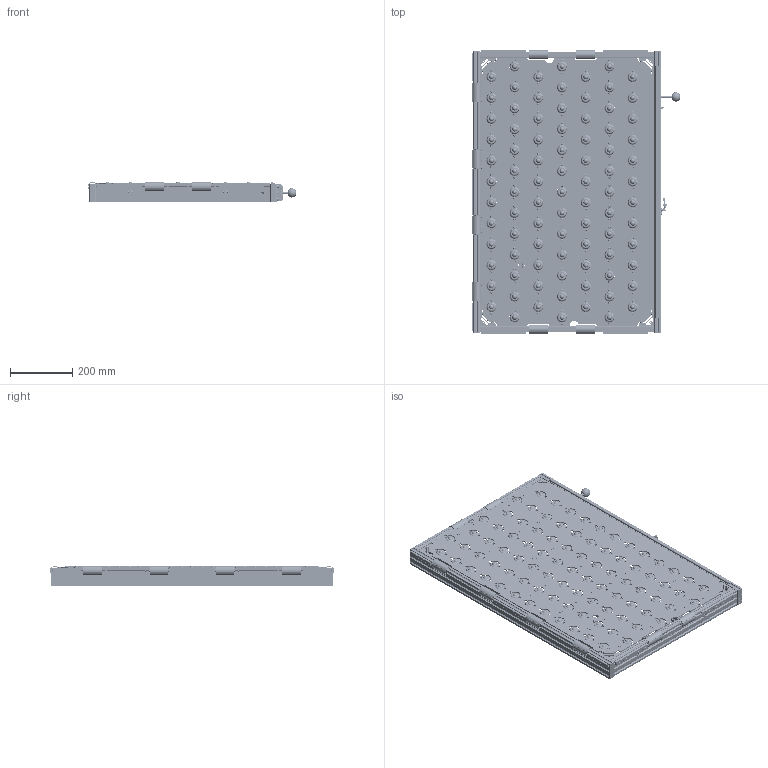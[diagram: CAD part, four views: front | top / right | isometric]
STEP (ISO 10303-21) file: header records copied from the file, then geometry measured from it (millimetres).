
FILE_DESCRIPTION(/* description */ (''),/* implementation_level */ '2;1');
FILE_NAME(/* name */ 'Z:\01-DesignData\★媒体用(Web\X2\FF0F30AB30BF30ED30B0\X0\)CADデータ\002-QL-FUS-6090\組立図.stp',/* time_stamp */ '2019-07-22T10:56:13+09:00',/* author */ ('m-susga'),/* organization */ (''),/* preprocessor_version */ 'ST-DEVELOPER v16.5',/* originating_system */ 'Autodesk Inventor 2017',/* authorisation */ '');
FILE_SCHEMA (('AUTOMOTIVE_DESIGN { 1 0 10303 214 3 1 1 }'));
Products named in the file (74): 組立図; シャーシ下部-Assy; シャーシ-Assy; NFS5-2060-560-LTP(アルミフレーム、ミスミ)
追加工(1)-Assy; HFS5-2060-460(\X2\30A230EB30DF30D530EC30FC30E0300130DF
30B930DF\X0\); HNTP5-3(後入れナット：M3); NFS5-2060-560(アルミフレーム、ミスミ)\X2\8FFD
52A05DE5\X0\(2)-Assy; HFS5-2060-460(\X2\30A230EB30DF30D530EC30FC30E0300130DF
30B930DF\X0\)_1; NFS5-2060-900(アルミフレーム、ミスミ)\X2\8FFD
52A05DE5\X0\(5)-Assy; HFS5-2060-800(\X2\30A230EB30DF30D530EC30FC30E0300130DF
30B930DF\X0\); ローラー-Assy; ASTP-30-60L(SP \X2\30B930DA30B730E330EB30D530EC30FC30E0300130DF30B930DF
\X0\); SRU-480(SUS304\X2\7CBE5BC630B730E330D530C8300130DF30B9
30DF\X0\); M4; M3x14(十字ナベ、SUS); HFS5-2020-800(\X2\30A230EB30DF30D530EC30FC30E0300130DF
30B930DF\X0\); NFS5-2020-400-Z5-XA10(\X2\30A230EB30DF30D530EC30FC30E0300130DF30B930DF
\X0\); NFS5-2020-200(\X2\30A230EB30DF30D530EC30FC30E0300130DF
30B930DF\X0\); HBLUT5-SEU(極厚型ブラケット-\X2\30BB30C330C83001
30DF30B930DF\X0\); _HBLUT5_a; HBKUS5-SEU(極厚型ブラケット-\X2\30BB30C330C83001
30DF30B930DF\X0\); _HBKUS5_b; M5x14(CSB); HFC5-2060-S(フレームキャップ、ミスミ)
-レーザー刻印仕様; HFC5-2060(\X2\30D530EC30FC30E030AD30E330C330D7300130DF
30B930DF\X0\); HFC5-2020-S(\X2\30D530EC30FC30E030AD30E330C330D7300130DF
30B930DF\X0\); NFS5-2060-560(アルミフレーム、ミスミ)\X2\8FFD
52A05DE5\X0\(2)-Assy_1; NFS5-2060-560(アルミフレーム、ミスミ)\X2\8FFD
52A05DE5\X0\(2); NFS5-2060-560(アルミフレーム、ミスミ)\X2\8FFD
52A05DE5\X0\(3)-Assy; NFS5-2060-560(アルミフレーム、ミスミ)\X2\8FFD
52A05DE5\X0\(3); HBLFSL5-SET(\X2\724730EA30D630D630E930B130C330C8300130DF
30B930DF\X0\); HBLFSL5hblfsn5 ; M5x10(CSB); NFS5-2525-860-TPW(\X2\30A230EB30DF30D530EC30FC30E03001
30DF30B930DF\X0\); M8x20(CSB)1; NFS5-2020-200-Z5-XA15-XB185-Assy; HFS5-2020-200(\X2\30A230EB30DF30D530EC30FC30E0300130DF
30B930DF\X0\); M5x28(CSB); NFS5-2525-825L(\X2\30A230EB30DF30D530EC30FC30E0300130DF
30B930DF\X0\); M5x18(CSB) ...
Assembly tree (309 placements, depth 6):
  組立図
    シャーシ下部-Assy
      シャーシ-Assy
        NFS5-2060-560-LTP(アルミフレーム、ミスミ)
追加工(1)-Assy
          HFS5-2060-460(\X2\30A230EB30DF30D530EC30FC30E0300130DF
30B930DF\X0\)
          ローラー-Assy  x2
            ASTP-30-60L(SP \X2\30B930DA30B730E330EB30D530EC30FC30E0300130DF30B930DF
\X0\)
            SRU-480(SUS304\X2\7CBE5BC630B730E330D530C8300130DF30B9
30DF\X0\)
            M4
          M3x14(十字ナベ、SUS)  x4
          HNTP5-3(後入れナット：M3)  x4
        NFS5-2060-560(アルミフレーム、ミスミ)\X2\8FFD
52A05DE5\X0\(2)-Assy
          HFS5-2060-460(\X2\30A230EB30DF30D530EC30FC30E0300130DF
30B930DF\X0\)_1
          ローラー-Assy  x2
            ASTP-30-60L(SP \X2\30B930DA30B730E330EB30D530EC30FC30E0300130DF30B930DF
\X0\)
            SRU-480(SUS304\X2\7CBE5BC630B730E330D530C8300130DF30B9
30DF\X0\)
            M4
          M3x14(十字ナベ、SUS)  x4
        NFS5-2060-900(アルミフレーム、ミスミ)\X2\8FFD
52A05DE5\X0\(5)-Assy
          HFS5-2060-800(\X2\30A230EB30DF30D530EC30FC30E0300130DF
30B930DF\X0\)
          ローラー-Assy  x4
            ASTP-30-60L(SP \X2\30B930DA30B730E330EB30D530EC30FC30E0300130DF30B930DF
\X0\)
            SRU-480(SUS304\X2\7CBE5BC630B730E330D530C8300130DF30B9
30DF\X0\)
            M4
          M3x14(十字ナベ、SUS)  x8
        HFS5-2020-800(\X2\30A230EB30DF30D530EC30FC30E0300130DF
30B930DF\X0\)  x2
        NFS5-2020-400-Z5-XA10(\X2\30A230EB30DF30D530EC30FC30E0300130DF30B930DF
\X0\)
        NFS5-2020-200(\X2\30A230EB30DF30D530EC30FC30E0300130DF
30B930DF\X0\)
        HBLUT5-SEU(極厚型ブラケット-\X2\30BB30C330C83001
30DF30B930DF\X0\)  x3
          _HBLUT5_a
          M5x14(CSB)
        HBKUS5-SEU(極厚型ブラケット-\X2\30BB30C330C83001
30DF30B930DF\X0\)  x2
          _HBKUS5_b
          M5x14(CSB)
        HFC5-2060(\X2\30D530EC30FC30E030AD30E330C330D7300130DF
30B930DF\X0\)  x3
        HFC5-2060-S(フレームキャップ、ミスミ)
-レーザー刻印仕様
        HFC5-2020-S(\X2\30D530EC30FC30E030AD30E330C330D7300130DF
30B930DF\X0\)  x2
        NFS5-2060-560(アルミフレーム、ミスミ)\X2\8FFD
52A05DE5\X0\(2)-Assy_1  x2
          NFS5-2060-560(アルミフレーム、ミスミ)\X2\8FFD
52A05DE5\X0\(2)
          HBLFSL5-SET(\X2\724730EA30D630D630E930B130C330C8300130DF
30B930DF\X0\)
            HBLFSL5hblfsn5 
            M5x10(CSB)  x2
        NFS5-2060-560(アルミフレーム、ミスミ)\X2\8FFD
52A05DE5\X0\(3)-Assy  x2
          NFS5-2060-560(アルミフレーム、ミスミ)\X2\8FFD
52A05DE5\X0\(3)
          HBLFSL5-SET(\X2\724730EA30D630D630E930B130C330C8300130DF
30B930DF\X0\)
            HBLFSL5hblfsn5 
            M5x10(CSB)  x2
        NFS5-2525-860-TPW(\X2\30A230EB30DF30D530EC30FC30E03001
30DF30B930DF\X0\)  x3
        M8x20(CSB)1  x6
        NFS5-2020-200-Z5-XA15-XB185-Assy  x2
          HFS5-2020-200(\X2\30A230EB30DF30D530EC30FC30E0300130DF
30B930DF\X0\)
          M5x20(CSB)
        M5x28(CSB)
        NFS5-2525-825L(\X2\30A230EB30DF30D530EC30FC30E0300130DF
30B930DF\X0\)  x4
        M5x18(CSB)  x28
        CIMMB2009-1.0  x3
      メインシリンダー-Assy
        M8(W)
        _HBLFSN5hblfsn5
        HNS3-ST-M8_214
Bounding box: 668.7 x 911.4 x 65.7 mm (x, y, z)
Volume: 6732558.5 mm3; surface area: 5802996.6 mm2
Topology: 544 solids, 544 shells, 17945 faces, 45939 edges, 29779 vertices
Faces by surface type: plane 10460, cylinder 5052, torus 889, cone 874, sphere 396, bspline 274
Full cylindrical faces by diameter (mm): 0.6 x87, 1.7 x8, 2 x8, 2.1 x1, 2.459 x4, 2.5 x1, 2.693 x2, 2.8 x1, 3 x18, 3.242 x2, 3.5 x36, 3.57 x174, 4 x201, 4.1 x2, 4.134 x17, 4.2 x70, 4.3 x16, 4.5 x174, 4.51 x1, 4.959 x3, 5 x99, 5.2 x32, 5.3 x8, 5.5 x74, 6 x1, 6.647 x3, 7 x4, 7.98 x2, 8 x27, 8.4 x1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
Entity records: 186043 total; most frequent: CARTESIAN_POINT 42011, ORIENTED_EDGE 29888, DIRECTION 28281, EDGE_CURVE 14944, LINE 10593, VECTOR 10593, VERTEX_POINT 10066, AXIS2_PLACEMENT_3D 8844
